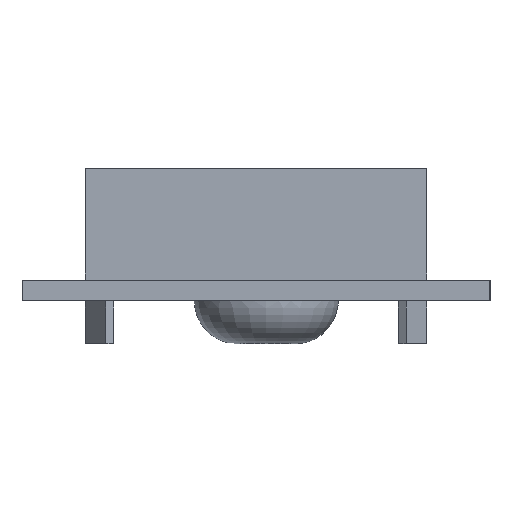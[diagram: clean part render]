
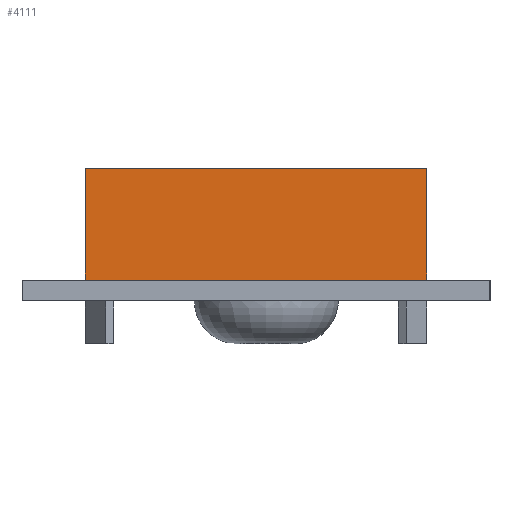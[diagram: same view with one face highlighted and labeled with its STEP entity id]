
A CAD part, left-side view. The second image highlights one B-rep face of the part: STEP entity #4111.
In plain terms, the highlighted planar face has unit normal (-1, 0, 0).
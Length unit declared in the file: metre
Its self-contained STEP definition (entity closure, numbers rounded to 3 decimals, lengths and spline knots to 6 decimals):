
#489=LINE('',#7944,#904);
#493=LINE('',#7954,#908);
#494=LINE('',#7956,#909);
#495=LINE('',#7958,#910);
#904=VECTOR('',#5745,1.);
#908=VECTOR('',#5755,1.);
#909=VECTOR('',#5758,1.);
#910=VECTOR('',#5759,1.);
#1715=ORIENTED_EDGE('',*,*,#2532,.T.);
#1716=ORIENTED_EDGE('',*,*,#2531,.F.);
#1717=ORIENTED_EDGE('',*,*,#2525,.F.);
#1718=ORIENTED_EDGE('',*,*,#2533,.T.);
#2525=EDGE_CURVE('',#2937,#2938,#489,.T.);
#2531=EDGE_CURVE('',#2938,#2939,#493,.T.);
#2532=EDGE_CURVE('',#2941,#2939,#494,.T.);
#2533=EDGE_CURVE('',#2937,#2941,#495,.T.);
#2937=VERTEX_POINT('',#7943);
#2938=VERTEX_POINT('',#7945);
#2939=VERTEX_POINT('',#7951);
#2941=VERTEX_POINT('',#7957);
#3289=EDGE_LOOP('',(#1715,#1716,#1717,#1718));
#3602=FACE_BOUND('',#3289,.T.);
#3852=PLANE('',#4829);
#4111=ADVANCED_FACE('',(#3602),#3852,.F.);
#4829=AXIS2_PLACEMENT_3D('',#7955,#5756,#5757);
#5745=DIRECTION('',(0.,-1.,0.));
#5755=DIRECTION('',(0.,0.,-1.));
#5756=DIRECTION('',(1.,0.,0.));
#5757=DIRECTION('',(0.,1.,0.));
#5758=DIRECTION('',(0.,-1.,0.));
#5759=DIRECTION('',(0.,0.,-1.));
#7943=CARTESIAN_POINT('',(-0.128245,-0.009806,0.033));
#7944=CARTESIAN_POINT('',(-0.128245,-0.009806,0.033));
#7945=CARTESIAN_POINT('',(-0.128245,-0.036106,0.033));
#7951=CARTESIAN_POINT('',(-0.128245,-0.036106,0.0244));
#7954=CARTESIAN_POINT('',(-0.128245,-0.036106,0.033));
#7955=CARTESIAN_POINT('',(-0.128245,-0.009806,0.033));
#7956=CARTESIAN_POINT('',(-0.128245,-0.009806,0.0244));
#7957=CARTESIAN_POINT('',(-0.128245,-0.009806,0.0244));
#7958=CARTESIAN_POINT('',(-0.128245,-0.009806,0.033));
